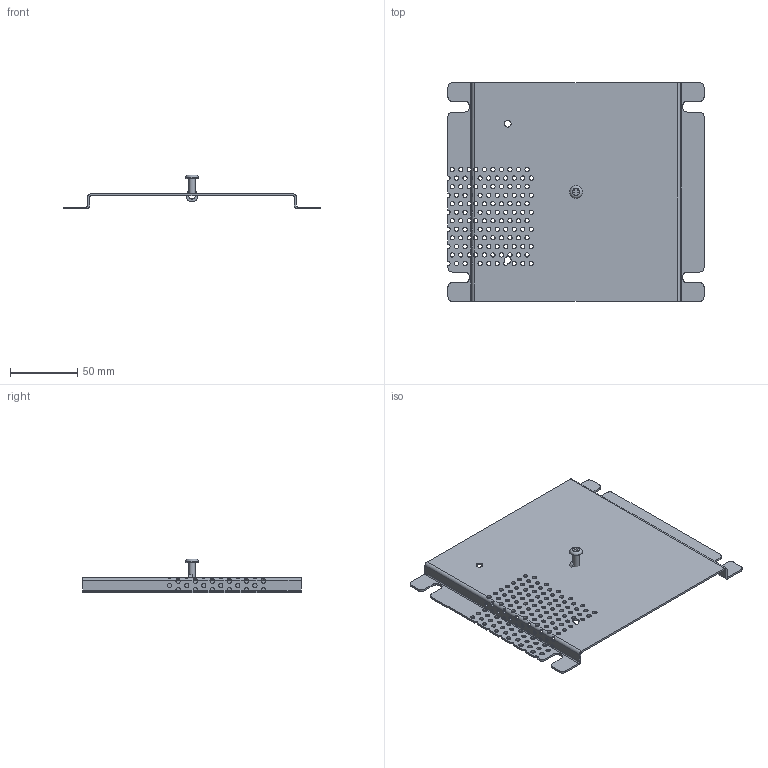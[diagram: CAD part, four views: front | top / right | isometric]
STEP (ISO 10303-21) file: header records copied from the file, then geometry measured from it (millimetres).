
FILE_DESCRIPTION(/* description */ ('Unknown'),/* implementation_level */ '2;1');
FILE_NAME(/* name */ 'CS88PP',/* time_stamp */ '2025-09-19T11:16:16-04:00',/* author */ ('Unknown'),/* organization */ ('Unknown'),/* preprocessor_version */ 'ST-DEVELOPER v18.104',/* originating_system */ 'Solid Edge',/* authorisation */ 'Unknown');
FILE_SCHEMA (('AUTOMOTIVE_DESIGN {1 0 10303 214 3 1 1}'));
Length unit declared in the file: millimetre
Products named in the file (8): CS88PP; COM71596-2; PNT11078; BUL88700; KIT95109; COM71595-1; SCS19495
Assembly tree (7 placements, depth 3):
  CS88PP
    COM71596-2
      COM71596-2
      PNT11078
    BUL88700
    KIT95109
      COM71595-1
      SCS19495
Bounding box: 190.5 x 162.56 x 25.22 mm (x, y, z)
Volume: 46957.2 mm3; surface area: 67970.1 mm2
Topology: 3 solids, 3 shells, 255 faces, 895 edges, 600 vertices
Faces by surface type: cylinder 172, plane 56, bspline 24, torus 3
Full cylindrical faces by diameter (mm): 3.175 x107, 4.826 x1, 5.105 x1, 9.322 x1
Entity records: 10930 total; most frequent: CARTESIAN_POINT 3593, DIRECTION 1450, ORIENTED_EDGE 1346, EDGE_CURVE 673, EDGE_LOOP 588, FACE_BOUND 588, AXIS2_PLACEMENT_3D 586, VERTEX_POINT 491
